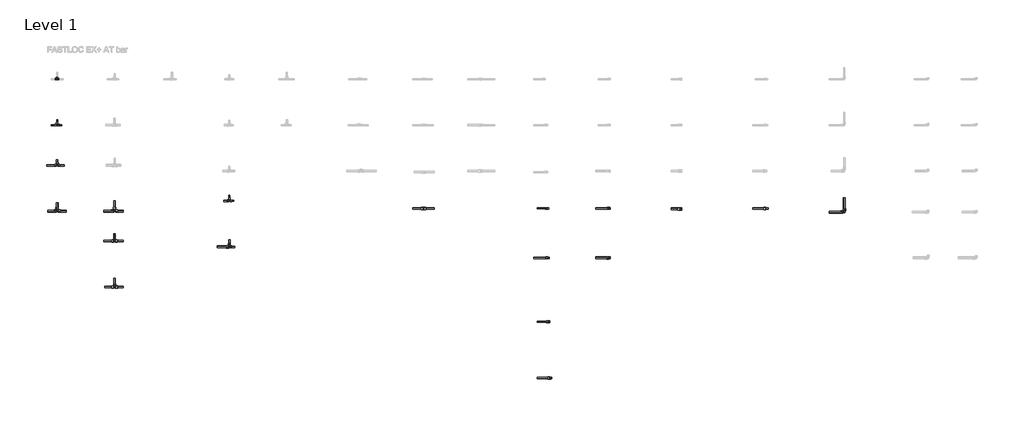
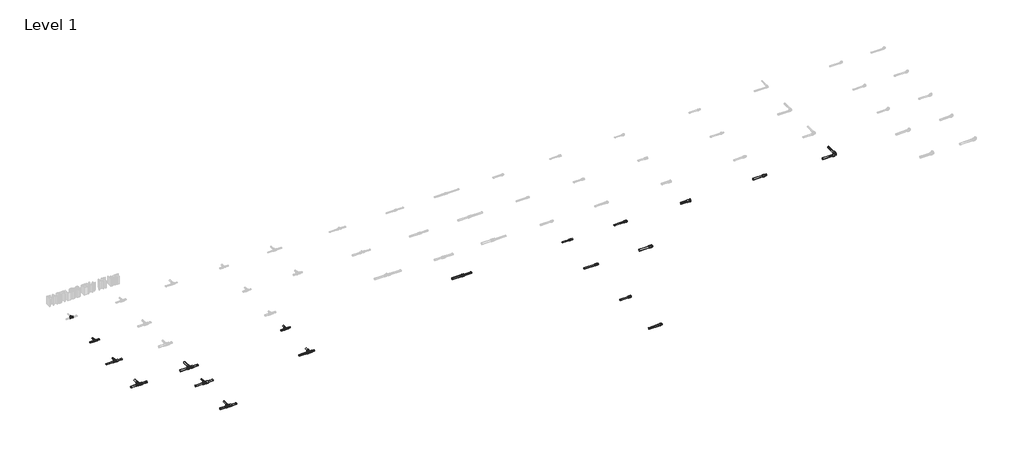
# One storey, part 1 of 16: 36 pipe segments, 19 pipe fittings.
"""IFC4 building model written with IfcOpenShell, lengths in millimetres."""

from ifc_helpers import new_model, si_unit, point, frame, frame_2d, origin, place, context, project, spatial, circle_curve, trimmed, segment, composite_curve, outline, extrude, transform, mapped, element, save
from components import pipe_fitting_5ed0d7cb, pipe_fitting_a2ce5f58, pipe_fitting_431f7250, pipe_fitting_a4fef31a, pipe_fitting_24cae873, pipe_fitting_67dfde5a, pipe_fitting_bb304fa9, pipe_fitting_59775212, pipe_fitting_7921c085, pipe_fitting_502111f3, pipe_fitting_137fcba6, pipe_fitting_c3e7e8f9, pipe_fitting_baae1e9c, pipe_fitting_f5731c1c, pipe_fitting_fe659845, pipe_fitting_76e4ea32, pipe_fitting_18fcccac, pipe_fitting_1e296f3b

model = new_model("IFC4")

# Units and contexts
model_context = context("Model", 3, world=origin())
ifc_project = project(units=[si_unit("LENGTHUNIT", "METRE", prefix="MILLI")], contexts=[model_context])

# Site, building, storey
site = spatial("IfcSite", under=ifc_project)
building = spatial("IfcBuilding", under=site)
storey = spatial("IfcBuildingStorey", under=building, Name="Level 1", Elevation=0.0)

# Pipe fittings
placement = place(None, origin())
pipe_fitting_shape = pipe_fitting_5ed0d7cb(model_context)
element("IfcPipeFitting", 1, ObjectType="FASTLOC_Adapter_RX+, with external thread : FSL A C external EX+ AT", at=placement, inside=storey, context=model_context, shape_type="MappedRepresentation", body=[
    mapped(pipe_fitting_shape, transform((10098.2332092, -8539.0537829, 0.0), x_axis=(1.0, 0.0, 0.0), y_axis=(0.0, 1.0, 0.0), z_axis=(0.0, 0.0, 1.0))),
])
pipe_fitting_2_shape = pipe_fitting_a2ce5f58(model_context)
element("IfcPipeFitting", 2, ObjectType="FASTLOC_Adapter_RX+, with external thread : FSL A C external EX+ AT", at=placement, inside=storey, context=model_context, shape_type="MappedRepresentation", body=[
    mapped(pipe_fitting_2_shape, transform((10110.8952889, -9399.407392, 0.0), x_axis=(1.0, 0.0, 0.0), y_axis=(0.0, 1.0, 0.0), z_axis=(0.0, 0.0, 1.0))),
])
pipe_fitting_3_shape = pipe_fitting_431f7250(model_context)
element("IfcPipeFitting", 3, ObjectType="FASTLOC_Adapter_RX+, with external thread : FSL A C external EX+ AT", at=placement, inside=storey, context=model_context, shape_type="MappedRepresentation", body=[
    mapped(pipe_fitting_3_shape, transform((10115.9601208, -10513.6704117, 0.0), x_axis=(1.0, 0.0, 0.0), y_axis=(0.0, 1.0, 0.0), z_axis=(0.0, 0.0, 1.0))),
])
pipe_fitting_4_shape = pipe_fitting_a4fef31a(model_context)
element("IfcPipeFitting", 4, ObjectType="FASTLOC_Adapter_RX+, with external thread : FSL A C external EX+ AT", at=placement, inside=storey, context=model_context, shape_type="MappedRepresentation", body=[
    mapped(pipe_fitting_4_shape, transform((10153.9463601, -11493.7153858, 0.0), x_axis=(1.0, 0.0, 0.0), y_axis=(0.0, 1.0, 0.0), z_axis=(0.0, 0.0, 1.0))),
])
pipe_fitting_5_shape = pipe_fitting_24cae873(model_context)
element("IfcPipeFitting", 5, ObjectType="FASTLOC_Corner EX+ : FSL C EX+ AT", at=placement, inside=storey, context=model_context, shape_type="MappedRepresentation", body=[
    mapped(pipe_fitting_5_shape, transform((15275.3824015, -8604.9640428, 0.0), x_axis=(1.0, 0.0, 0.0), y_axis=(0.0, 1.0, 0.0), z_axis=(0.0, 0.0, 1.0))),
])
pipe_fitting_6_shape = pipe_fitting_67dfde5a(model_context)
element("IfcPipeFitting", 6, ObjectType="FASTLOC_T-piece_EX+ : FSL T-Piece EX+ AT", at=placement, inside=storey, context=model_context, shape_type="MappedRepresentation", body=[
    mapped(pipe_fitting_6_shape, transform((1562.9146925, -6287.6479967, 0.0), x_axis=(1.0, 0.0, 0.0), y_axis=(0.0, 1.0, 0.0), z_axis=(0.0, 0.0, 1.0))),
])
pipe_fitting_7_shape = pipe_fitting_bb304fa9(model_context)
element("IfcPipeFitting", 7, ObjectType="FASTLOC_T-piece_EX+ : FSL T-Piece EX+ AT", at=placement, inside=storey, context=model_context, shape_type="MappedRepresentation", body=[
    mapped(pipe_fitting_7_shape, transform((1562.9146925, -7087.6479967, 0.0), x_axis=(1.0, 0.0, 0.0), y_axis=(0.0, 1.0, 0.0), z_axis=(0.0, 0.0, 1.0))),
])
pipe_fitting_8_shape = pipe_fitting_59775212(model_context)
element("IfcPipeFitting", 8, ObjectType="FASTLOC_T-piece_EX+ : FSL T-Piece EX+ AT", at=placement, inside=storey, context=model_context, shape_type="MappedRepresentation", body=[
    mapped(pipe_fitting_8_shape, transform((1562.9146925, -7787.6479967, 0.0), x_axis=(1.0, 0.0, 0.0), y_axis=(0.0, 1.0, 0.0), z_axis=(0.0, 0.0, 1.0))),
])
pipe_fitting_9_shape = pipe_fitting_7921c085(model_context)
element("IfcPipeFitting", 9, ObjectType="FASTLOC_T-piece_EX+ : FSL T-Piece EX+ AT", at=placement, inside=storey, context=model_context, shape_type="MappedRepresentation", body=[
    mapped(pipe_fitting_9_shape, transform((1562.9146925, -8587.6479967, 0.0), x_axis=(1.0, 0.0, 0.0), y_axis=(0.0, 1.0, 0.0), z_axis=(0.0, 0.0, 1.0))),
])
element("IfcPipeFitting", 10, ObjectType="FASTLOC_T-piece_EX+ : FSL T-Piece EX+ AT", at=placement, inside=storey, context=model_context, shape_type="MappedRepresentation", body=[
    mapped(pipe_fitting_9_shape, transform((2562.9146925, -8587.6479967, 0.0), x_axis=(1.0, 0.0, 0.0), y_axis=(0.0, 1.0, 0.0), z_axis=(0.0, 0.0, 1.0))),
])
pipe_fitting_10_shape = pipe_fitting_502111f3(model_context)
element("IfcPipeFitting", 11, ObjectType="FASTLOC_T-piece_EX+ : FSL T-Piece EX+ AT", at=placement, inside=storey, context=model_context, shape_type="MappedRepresentation", body=[
    mapped(pipe_fitting_10_shape, transform((2562.9146925, -9107.6479967, 0.0), x_axis=(1.0, 0.0, 0.0), y_axis=(0.0, 1.0, 0.0), z_axis=(0.0, 0.0, 1.0))),
])
pipe_fitting_11_shape = pipe_fitting_137fcba6(model_context)
element("IfcPipeFitting", 12, ObjectType="FASTLOC_T-piece_EX+ : FSL T-Piece EX+ AT", at=placement, inside=storey, context=model_context, shape_type="MappedRepresentation", body=[
    mapped(pipe_fitting_11_shape, transform((2562.9146925, -9907.6479967, 0.0), x_axis=(1.0, 0.0, 0.0), y_axis=(0.0, 1.0, 0.0), z_axis=(0.0, 0.0, 1.0))),
])
pipe_fitting_12_shape = pipe_fitting_c3e7e8f9(model_context)
element("IfcPipeFitting", 13, ObjectType="FASTLOC_T-piece_EX+ : FSL T-Piece EX+ AT", at=placement, inside=storey, context=model_context, shape_type="MappedRepresentation", body=[
    mapped(pipe_fitting_12_shape, transform((4562.9146925, -9207.6479967, 0.0), x_axis=(1.0, 0.0, 0.0), y_axis=(0.0, 1.0, 0.0), z_axis=(0.0, 0.0, 1.0))),
])
pipe_fitting_13_shape = pipe_fitting_baae1e9c(model_context)
element("IfcPipeFitting", 14, ObjectType="FASTLOC_T-piece_EX+ : FSL T-Piece EX+ AT", at=placement, inside=storey, context=model_context, shape_type="MappedRepresentation", body=[
    mapped(pipe_fitting_13_shape, transform((4562.9146925, -8407.6479967, 0.0), x_axis=(1.0, 0.0, 0.0), y_axis=(0.0, 1.0, 0.0), z_axis=(0.0, 0.0, 1.0))),
])
pipe_fitting_14_shape = pipe_fitting_f5731c1c(model_context)
element("IfcPipeFitting", 15, ObjectType="FASTLOC_Coupling equal EX+ : FSL C EQ EX+ AT", at=placement, inside=storey, context=model_context, shape_type="MappedRepresentation", body=[
    mapped(pipe_fitting_14_shape, transform((7947.6401575, -8539.0537829, 0.0), x_axis=(1.0, 0.0, 0.0), y_axis=(0.0, 1.0, 0.0), z_axis=(0.0, 0.0, 1.0))),
])
pipe_fitting_15_shape = pipe_fitting_fe659845(model_context)
element("IfcPipeFitting", 16, ObjectType="FASTLOC Copper press adapter RX+ : FSL RX+ AT", at=placement, inside=storey, context=model_context, shape_type="MappedRepresentation", body=[
    mapped(pipe_fitting_15_shape, transform((13915.3824015, -8539.0537829, 0.0), x_axis=(1.0, 0.0, 0.0), y_axis=(0.0, 1.0, 0.0), z_axis=(0.0, 0.0, 1.0))),
])
pipe_fitting_16_shape = pipe_fitting_76e4ea32(model_context)
element("IfcPipeFitting", 17, ObjectType="FASTLOC_Adapter with union nut EX+ : FSL A union nut EX+ DE", at=placement, inside=storey, context=model_context, shape_type="MappedRepresentation", body=[
    mapped(pipe_fitting_16_shape, transform((12418.3503777, -8547.0537829, 0.0), x_axis=(1.0, 0.0, 0.0), y_axis=(0.0, 1.0, 0.0), z_axis=(0.0, 0.0, 1.0))),
])
pipe_fitting_17_shape = pipe_fitting_18fcccac(model_context)
element("IfcPipeFitting", 18, ObjectType="FASTLOC_Adapter_EX+, with internal thread : FSL A internal AT", at=placement, inside=storey, context=model_context, shape_type="MappedRepresentation", body=[
    mapped(pipe_fitting_17_shape, transform((11179.5143796, -8539.0537829, 0.0), x_axis=(1.0, 0.0, 0.0), y_axis=(0.0, 1.0, 0.0), z_axis=(0.0, 0.0, 1.0))),
])
pipe_fitting_18_shape = pipe_fitting_1e296f3b(model_context)
element("IfcPipeFitting", 19, ObjectType="FASTLOC_Adapter_EX+, with internal thread : FSL A internal AT", at=placement, inside=storey, context=model_context, shape_type="MappedRepresentation", body=[
    mapped(pipe_fitting_18_shape, transform((11179.5143796, -9399.407392, 0.0), x_axis=(1.0, 0.0, 0.0), y_axis=(0.0, 1.0, 0.0), z_axis=(0.0, 0.0, 1.0))),
])

# Pipe segments
element("IfcPipeSegment", 20, ObjectType="FASTLOC EX+ ML AT bar", at=placement, inside=storey, context=model_context, shape_type="SweptSolid", body=[
    extrude(outline(composite_curve([segment(trimmed(circle_curve(frame_2d((0.0, 15275.3824015)), 16.0), [point((0.0, 15291.3824015))], [point((16.0, 15275.3824015))], False, "CARTESIAN"), True, "CONTINUOUS"), segment(trimmed(circle_curve(frame_2d((0.0, 15275.3824015)), 16.0), [point((16.0, 15275.3824015))], [point((0.0, 15259.3824015))], False, "CARTESIAN"), True, "CONTINUOUS"), segment(trimmed(circle_curve(frame_2d((0.0, 15275.3824015)), 16.0), [point((0.0, 15259.3824015))], [point((-16.0, 15275.3824015))], False, "CARTESIAN"), True, "CONTINUOUS"), segment(trimmed(circle_curve(frame_2d((0.0, 15275.3824015)), 16.0), [point((-16.0, 15275.3824015))], [point((0.0, 15291.3824015))], False, "CARTESIAN"), True, "CONTINUOUS")], self_intersect=False)), frame((0.0, -8569.9640428, 0.0), z_axis=(0.0, 1.0, 0.0), x_axis=(0.0, 0.0, 1.0)), (0.0, 0.0, 1.0), 220.0),
])
element("IfcPipeSegment", 21, ObjectType="FASTLOC EX+ ML AT bar", at=placement, inside=storey, context=model_context, shape_type="SweptSolid", body=[
    extrude(outline(composite_curve([segment(trimmed(circle_curve(frame_2d((-8604.9640428, 0.0)), 16.0), [point((-8588.9640428, 0.0))], [point((-8604.9640428, -16.0))], False, "CARTESIAN"), True, "CONTINUOUS"), segment(trimmed(circle_curve(frame_2d((-8604.9640428, 0.0)), 16.0), [point((-8604.9640428, -16.0))], [point((-8620.9640428, 0.0))], False, "CARTESIAN"), True, "CONTINUOUS"), segment(trimmed(circle_curve(frame_2d((-8604.9640428, 0.0)), 16.0), [point((-8620.9640428, 0.0))], [point((-8604.9640428, 16.0))], False, "CARTESIAN"), True, "CONTINUOUS"), segment(trimmed(circle_curve(frame_2d((-8604.9640428, 0.0)), 16.0), [point((-8604.9640428, 16.0))], [point((-8588.9640428, 0.0))], False, "CARTESIAN"), True, "CONTINUOUS")], self_intersect=False)), frame((15013.2824015, 0.0, 0.0), z_axis=(1.0, 0.0, 0.0), x_axis=(0.0, 1.0, 0.0)), (0.0, 0.0, 1.0), 227.1),
])
element("IfcPipeSegment", 22, ObjectType="FASTLOC EX+ ML AT bar", at=placement, inside=storey, context=model_context, shape_type="SweptSolid", body=[
    extrude(outline(composite_curve([segment(trimmed(circle_curve(frame_2d((-8539.0537829, 0.0)), 16.0), [point((-8523.0537829, 0.0))], [point((-8539.0537829, -16.0))], False, "CARTESIAN"), True, "CONTINUOUS"), segment(trimmed(circle_curve(frame_2d((-8539.0537829, 0.0)), 16.0), [point((-8539.0537829, -16.0))], [point((-8555.0537829, 0.0))], False, "CARTESIAN"), True, "CONTINUOUS"), segment(trimmed(circle_curve(frame_2d((-8539.0537829, 0.0)), 16.0), [point((-8555.0537829, 0.0))], [point((-8539.0537829, 16.0))], False, "CARTESIAN"), True, "CONTINUOUS"), segment(trimmed(circle_curve(frame_2d((-8539.0537829, 0.0)), 16.0), [point((-8539.0537829, 16.0))], [point((-8523.0537829, 0.0))], False, "CARTESIAN"), True, "CONTINUOUS")], self_intersect=False)), frame((13682.2824015, 0.0, 0.0), z_axis=(1.0, 0.0, 0.0), x_axis=(0.0, 1.0, 0.0)), (0.0, 0.0, 1.0), 220.0),
])
element("IfcPipeSegment", 23, ObjectType="FASTLOC EX+ ML AT bar", at=placement, inside=storey, context=model_context, shape_type="SweptSolid", body=[
    extrude(outline(composite_curve([segment(trimmed(circle_curve(frame_2d((-8547.0537829, 0.0)), 16.0), [point((-8531.0537829, 0.0))], [point((-8547.0537829, -16.0))], False, "CARTESIAN"), True, "CONTINUOUS"), segment(trimmed(circle_curve(frame_2d((-8547.0537829, 0.0)), 16.0), [point((-8547.0537829, -16.0))], [point((-8563.0537829, 0.0))], False, "CARTESIAN"), True, "CONTINUOUS"), segment(trimmed(circle_curve(frame_2d((-8547.0537829, 0.0)), 16.0), [point((-8563.0537829, 0.0))], [point((-8547.0537829, 16.0))], False, "CARTESIAN"), True, "CONTINUOUS"), segment(trimmed(circle_curve(frame_2d((-8547.0537829, 0.0)), 16.0), [point((-8547.0537829, 16.0))], [point((-8531.0537829, 0.0))], False, "CARTESIAN"), True, "CONTINUOUS")], self_intersect=False)), frame((12259.3503777, 0.0, 0.0), z_axis=(1.0, 0.0, 0.0), x_axis=(0.0, 1.0, 0.0)), (0.0, 0.0, 1.0), 147.5),
])
element("IfcPipeSegment", 24, ObjectType="FASTLOC EX+ ML AT bar", at=placement, inside=storey, context=model_context, shape_type="SweptSolid", body=[
    extrude(outline(composite_curve([segment(trimmed(circle_curve(frame_2d((-8539.0537829, 0.0)), 12.5), [point((-8526.5537829, 0.0))], [point((-8539.0537829, -12.5))], False, "CARTESIAN"), True, "CONTINUOUS"), segment(trimmed(circle_curve(frame_2d((-8539.0537829, 0.0)), 12.5), [point((-8539.0537829, -12.5))], [point((-8551.5537829, 0.0))], False, "CARTESIAN"), True, "CONTINUOUS"), segment(trimmed(circle_curve(frame_2d((-8539.0537829, 0.0)), 12.5), [point((-8551.5537829, 0.0))], [point((-8539.0537829, 12.5))], False, "CARTESIAN"), True, "CONTINUOUS"), segment(trimmed(circle_curve(frame_2d((-8539.0537829, 0.0)), 12.5), [point((-8539.0537829, 12.5))], [point((-8526.5537829, 0.0))], False, "CARTESIAN"), True, "CONTINUOUS")], self_intersect=False)), frame((10946.6143796, 0.0, 0.0), z_axis=(1.0, 0.0, 0.0), x_axis=(0.0, 1.0, 0.0)), (0.0, 0.0, 1.0), 220.0),
])
element("IfcPipeSegment", 25, ObjectType="FASTLOC EX+ ML AT bar", at=placement, inside=storey, context=model_context, shape_type="SweptSolid", body=[
    extrude(outline(composite_curve([segment(trimmed(circle_curve(frame_2d((-9399.407392, 0.0)), 16.0), [point((-9383.407392, 0.0))], [point((-9399.407392, -16.0))], False, "CARTESIAN"), True, "CONTINUOUS"), segment(trimmed(circle_curve(frame_2d((-9399.407392, 0.0)), 16.0), [point((-9399.407392, -16.0))], [point((-9415.407392, 0.0))], False, "CARTESIAN"), True, "CONTINUOUS"), segment(trimmed(circle_curve(frame_2d((-9399.407392, 0.0)), 16.0), [point((-9415.407392, 0.0))], [point((-9399.407392, 16.0))], False, "CARTESIAN"), True, "CONTINUOUS"), segment(trimmed(circle_curve(frame_2d((-9399.407392, 0.0)), 16.0), [point((-9399.407392, 16.0))], [point((-9383.407392, 0.0))], False, "CARTESIAN"), True, "CONTINUOUS")], self_intersect=False)), frame((10946.6143796, 0.0, 0.0), z_axis=(1.0, 0.0, 0.0), x_axis=(0.0, 1.0, 0.0)), (0.0, 0.0, 1.0), 218.4),
])
element("IfcPipeSegment", 26, ObjectType="FASTLOC EX+ ML AT bar", at=placement, inside=storey, context=model_context, shape_type="SweptSolid", body=[
    extrude(outline(composite_curve([segment(trimmed(circle_curve(frame_2d((-10513.6704117, 0.0)), 12.5), [point((-10501.1704117, 0.0))], [point((-10513.6704117, -12.5))], False, "CARTESIAN"), True, "CONTINUOUS"), segment(trimmed(circle_curve(frame_2d((-10513.6704117, 0.0)), 12.5), [point((-10513.6704117, -12.5))], [point((-10526.1704117, 0.0))], False, "CARTESIAN"), True, "CONTINUOUS"), segment(trimmed(circle_curve(frame_2d((-10513.6704117, 0.0)), 12.5), [point((-10526.1704117, 0.0))], [point((-10513.6704117, 12.5))], False, "CARTESIAN"), True, "CONTINUOUS"), segment(trimmed(circle_curve(frame_2d((-10513.6704117, 0.0)), 12.5), [point((-10513.6704117, 12.5))], [point((-10501.1704117, 0.0))], False, "CARTESIAN"), True, "CONTINUOUS")], self_intersect=False)), frame((9926.5601208, 0.0, 0.0), z_axis=(1.0, 0.0, 0.0), x_axis=(0.0, 1.0, 0.0)), (0.0, 0.0, 1.0), 180.0),
])
element("IfcPipeSegment", 27, ObjectType="FASTLOC EX+ ML AT bar", at=placement, inside=storey, context=model_context, shape_type="SweptSolid", body=[
    extrude(outline(composite_curve([segment(trimmed(circle_curve(frame_2d((-9399.407392, 0.0)), 12.5), [point((-9386.907392, 0.0))], [point((-9399.407392, -12.5))], False, "CARTESIAN"), True, "CONTINUOUS"), segment(trimmed(circle_curve(frame_2d((-9399.407392, 0.0)), 12.5), [point((-9399.407392, -12.5))], [point((-9411.907392, 0.0))], False, "CARTESIAN"), True, "CONTINUOUS"), segment(trimmed(circle_curve(frame_2d((-9399.407392, 0.0)), 12.5), [point((-9411.907392, 0.0))], [point((-9399.407392, 12.5))], False, "CARTESIAN"), True, "CONTINUOUS"), segment(trimmed(circle_curve(frame_2d((-9399.407392, 0.0)), 12.5), [point((-9399.407392, 12.5))], [point((-9386.907392, 0.0))], False, "CARTESIAN"), True, "CONTINUOUS")], self_intersect=False)), frame((9861.4952889, 0.0, 0.0), z_axis=(1.0, 0.0, 0.0), x_axis=(0.0, 1.0, 0.0)), (0.0, 0.0, 1.0), 240.0),
])
element("IfcPipeSegment", 28, ObjectType="FASTLOC EX+ ML AT bar", at=placement, inside=storey, context=model_context, shape_type="SweptSolid", body=[
    extrude(outline(composite_curve([segment(trimmed(circle_curve(frame_2d((-8539.0537829, 0.0)), 10.0), [point((-8529.0537829, 0.0))], [point((-8539.0537829, -10.0))], False, "CARTESIAN"), True, "CONTINUOUS"), segment(trimmed(circle_curve(frame_2d((-8539.0537829, 0.0)), 10.0), [point((-8539.0537829, -10.0))], [point((-8549.0537829, 0.0))], False, "CARTESIAN"), True, "CONTINUOUS"), segment(trimmed(circle_curve(frame_2d((-8539.0537829, 0.0)), 10.0), [point((-8549.0537829, 0.0))], [point((-8539.0537829, 10.0))], False, "CARTESIAN"), True, "CONTINUOUS"), segment(trimmed(circle_curve(frame_2d((-8539.0537829, 0.0)), 10.0), [point((-8539.0537829, 10.0))], [point((-8529.0537829, 0.0))], False, "CARTESIAN"), True, "CONTINUOUS")], self_intersect=False)), frame((9926.5601208, 0.0, 0.0), z_axis=(1.0, 0.0, 0.0), x_axis=(0.0, 1.0, 0.0)), (0.0, 0.0, 1.0), 162.3730883),
])
element("IfcPipeSegment", 29, ObjectType="FASTLOC EX+ ML AT bar", at=placement, inside=storey, context=model_context, shape_type="SweptSolid", body=[
    extrude(outline(composite_curve([segment(trimmed(circle_curve(frame_2d((-8539.0537829, 0.0)), 16.0), [point((-8555.0537829, 0.0))], [point((-8539.0537829, 16.0))], False, "CARTESIAN"), True, "CONTINUOUS"), segment(trimmed(circle_curve(frame_2d((-8539.0537829, 0.0)), 16.0), [point((-8539.0537829, 16.0))], [point((-8523.0537829, 0.0))], False, "CARTESIAN"), True, "CONTINUOUS"), segment(trimmed(circle_curve(frame_2d((-8539.0537829, 0.0)), 16.0), [point((-8523.0537829, 0.0))], [point((-8539.0537829, -16.0))], False, "CARTESIAN"), True, "CONTINUOUS"), segment(trimmed(circle_curve(frame_2d((-8539.0537829, 0.0)), 16.0), [point((-8539.0537829, -16.0))], [point((-8555.0537829, 0.0))], False, "CARTESIAN"), True, "CONTINUOUS")], self_intersect=False)), frame((7957.6401575, 0.0, 0.0), z_axis=(1.0, 0.0, 0.0), x_axis=(0.0, 1.0, 0.0)), (0.0, 0.0, 1.0), 178.0),
])
element("IfcPipeSegment", 30, ObjectType="FASTLOC EX+ ML AT bar", at=placement, inside=storey, context=model_context, shape_type="SweptSolid", body=[
    extrude(outline(composite_curve([segment(trimmed(circle_curve(frame_2d((-8539.0537829, 0.0)), 16.0), [point((-8523.0537829, 0.0))], [point((-8539.0537829, -16.0))], False, "CARTESIAN"), True, "CONTINUOUS"), segment(trimmed(circle_curve(frame_2d((-8539.0537829, 0.0)), 16.0), [point((-8539.0537829, -16.0))], [point((-8555.0537829, 0.0))], False, "CARTESIAN"), True, "CONTINUOUS"), segment(trimmed(circle_curve(frame_2d((-8539.0537829, 0.0)), 16.0), [point((-8555.0537829, 0.0))], [point((-8539.0537829, 16.0))], False, "CARTESIAN"), True, "CONTINUOUS"), segment(trimmed(circle_curve(frame_2d((-8539.0537829, 0.0)), 16.0), [point((-8539.0537829, 16.0))], [point((-8523.0537829, 0.0))], False, "CARTESIAN"), True, "CONTINUOUS")], self_intersect=False)), frame((7757.6401575, 0.0, 0.0), z_axis=(1.0, 0.0, 0.0), x_axis=(0.0, 1.0, 0.0)), (0.0, 0.0, 1.0), 180.0),
])
element("IfcPipeSegment", 31, ObjectType="FASTLOC EX+ ML AT bar", at=placement, inside=storey, context=model_context, shape_type="SweptSolid", body=[
    extrude(outline(composite_curve([segment(trimmed(circle_curve(frame_2d((-8407.6479967, 0.0)), 10.0), [point((-8417.6479967, 0.0))], [point((-8407.6479967, 10.0))], False, "CARTESIAN"), True, "CONTINUOUS"), segment(trimmed(circle_curve(frame_2d((-8407.6479967, 0.0)), 10.0), [point((-8407.6479967, 10.0))], [point((-8397.6479967, 0.0))], False, "CARTESIAN"), True, "CONTINUOUS"), segment(trimmed(circle_curve(frame_2d((-8407.6479967, 0.0)), 10.0), [point((-8397.6479967, 0.0))], [point((-8407.6479967, -10.0))], False, "CARTESIAN"), True, "CONTINUOUS"), segment(trimmed(circle_curve(frame_2d((-8407.6479967, 0.0)), 10.0), [point((-8407.6479967, -10.0))], [point((-8417.6479967, 0.0))], False, "CARTESIAN"), True, "CONTINUOUS")], self_intersect=False)), frame((4580.3146925, 0.0, 0.0), z_axis=(1.0, 0.0, 0.0), x_axis=(0.0, 1.0, 0.0)), (0.0, 0.0, 1.0), 60.0),
])
element("IfcPipeSegment", 32, ObjectType="FASTLOC EX+ ML AT bar", at=placement, inside=storey, context=model_context, shape_type="SweptSolid", body=[
    extrude(outline(composite_curve([segment(trimmed(circle_curve(frame_2d((0.0, 4562.9146925)), 10.0), [point((0.0, 4572.9146925))], [point((10.0, 4562.9146925))], False, "CARTESIAN"), True, "CONTINUOUS"), segment(trimmed(circle_curve(frame_2d((0.0, 4562.9146925)), 10.0), [point((10.0, 4562.9146925))], [point((0.0, 4552.9146925))], False, "CARTESIAN"), True, "CONTINUOUS"), segment(trimmed(circle_curve(frame_2d((0.0, 4562.9146925)), 10.0), [point((0.0, 4552.9146925))], [point((-10.0, 4562.9146925))], False, "CARTESIAN"), True, "CONTINUOUS"), segment(trimmed(circle_curve(frame_2d((0.0, 4562.9146925)), 10.0), [point((-10.0, 4562.9146925))], [point((0.0, 4572.9146925))], False, "CARTESIAN"), True, "CONTINUOUS")], self_intersect=False)), frame((0.0, -8378.4479967, 0.0), z_axis=(0.0, 1.0, 0.0), x_axis=(0.0, 0.0, 1.0)), (0.0, 0.0, 1.0), 65.0),
])
element("IfcPipeSegment", 33, ObjectType="FASTLOC EX+ ML AT bar", at=placement, inside=storey, context=model_context, shape_type="SweptSolid", body=[
    extrude(outline(composite_curve([segment(trimmed(circle_curve(frame_2d((-8407.6479967, 0.0)), 12.5), [point((-8395.1479967, 0.0))], [point((-8407.6479967, -12.5))], False, "CARTESIAN"), True, "CONTINUOUS"), segment(trimmed(circle_curve(frame_2d((-8407.6479967, 0.0)), 12.5), [point((-8407.6479967, -12.5))], [point((-8420.1479967, 0.0))], False, "CARTESIAN"), True, "CONTINUOUS"), segment(trimmed(circle_curve(frame_2d((-8407.6479967, 0.0)), 12.5), [point((-8420.1479967, 0.0))], [point((-8407.6479967, 12.5))], False, "CARTESIAN"), True, "CONTINUOUS"), segment(trimmed(circle_curve(frame_2d((-8407.6479967, 0.0)), 12.5), [point((-8407.6479967, 12.5))], [point((-8395.1479967, 0.0))], False, "CARTESIAN"), True, "CONTINUOUS")], self_intersect=False)), frame((4464.6146925, 0.0, 0.0), z_axis=(1.0, 0.0, 0.0), x_axis=(0.0, 1.0, 0.0)), (0.0, 0.0, 1.0), 80.0),
])
element("IfcPipeSegment", 34, ObjectType="FASTLOC EX+ ML AT bar", at=placement, inside=storey, context=model_context, shape_type="SweptSolid", body=[
    extrude(outline(composite_curve([segment(trimmed(circle_curve(frame_2d((-9207.6479967, 0.0)), 12.5), [point((-9220.1479967, 0.0))], [point((-9207.6479967, 12.5))], False, "CARTESIAN"), True, "CONTINUOUS"), segment(trimmed(circle_curve(frame_2d((-9207.6479967, 0.0)), 12.5), [point((-9207.6479967, 12.5))], [point((-9195.1479967, 0.0))], False, "CARTESIAN"), True, "CONTINUOUS"), segment(trimmed(circle_curve(frame_2d((-9207.6479967, 0.0)), 12.5), [point((-9195.1479967, 0.0))], [point((-9207.6479967, -12.5))], False, "CARTESIAN"), True, "CONTINUOUS"), segment(trimmed(circle_curve(frame_2d((-9207.6479967, 0.0)), 12.5), [point((-9207.6479967, -12.5))], [point((-9220.1479967, 0.0))], False, "CARTESIAN"), True, "CONTINUOUS")], self_intersect=False)), frame((4583.0146925, 0.0, 0.0), z_axis=(1.0, 0.0, 0.0), x_axis=(0.0, 1.0, 0.0)), (0.0, 0.0, 1.0), 70.4),
])
element("IfcPipeSegment", 35, ObjectType="FASTLOC EX+ ML AT bar", at=placement, inside=storey, context=model_context, shape_type="SweptSolid", body=[
    extrude(outline(composite_curve([segment(trimmed(circle_curve(frame_2d((0.0, 4562.9146925)), 12.5), [point((0.0, 4575.4146925))], [point((12.5, 4562.9146925))], False, "CARTESIAN"), True, "CONTINUOUS"), segment(trimmed(circle_curve(frame_2d((0.0, 4562.9146925)), 12.5), [point((12.5, 4562.9146925))], [point((0.0, 4550.4146925))], False, "CARTESIAN"), True, "CONTINUOUS"), segment(trimmed(circle_curve(frame_2d((0.0, 4562.9146925)), 12.5), [point((0.0, 4550.4146925))], [point((-12.5, 4562.9146925))], False, "CARTESIAN"), True, "CONTINUOUS"), segment(trimmed(circle_curve(frame_2d((0.0, 4562.9146925)), 12.5), [point((-12.5, 4562.9146925))], [point((0.0, 4575.4146925))], False, "CARTESIAN"), True, "CONTINUOUS")], self_intersect=False)), frame((0.0, -9173.2479967, 0.0), z_axis=(0.0, 1.0, 0.0), x_axis=(0.0, 0.0, 1.0)), (0.0, 0.0, 1.0), 85.0),
])
element("IfcPipeSegment", 36, ObjectType="FASTLOC EX+ ML AT bar", at=placement, inside=storey, context=model_context, shape_type="SweptSolid", body=[
    extrude(outline(composite_curve([segment(trimmed(circle_curve(frame_2d((-9207.6479967, 0.0)), 16.0), [point((-9191.6479967, 0.0))], [point((-9207.6479967, -16.0))], False, "CARTESIAN"), True, "CONTINUOUS"), segment(trimmed(circle_curve(frame_2d((-9207.6479967, 0.0)), 16.0), [point((-9207.6479967, -16.0))], [point((-9223.6479967, 0.0))], False, "CARTESIAN"), True, "CONTINUOUS"), segment(trimmed(circle_curve(frame_2d((-9207.6479967, 0.0)), 16.0), [point((-9223.6479967, 0.0))], [point((-9207.6479967, 16.0))], False, "CARTESIAN"), True, "CONTINUOUS"), segment(trimmed(circle_curve(frame_2d((-9207.6479967, 0.0)), 16.0), [point((-9207.6479967, 16.0))], [point((-9191.6479967, 0.0))], False, "CARTESIAN"), True, "CONTINUOUS")], self_intersect=False)), frame((4355.8146925, 0.0, 0.0), z_axis=(1.0, 0.0, 0.0), x_axis=(0.0, 1.0, 0.0)), (0.0, 0.0, 1.0), 185.0),
])
element("IfcPipeSegment", 37, ObjectType="FASTLOC EX+ ML AT bar", at=placement, inside=storey, context=model_context, shape_type="SweptSolid", body=[
    extrude(outline(composite_curve([segment(trimmed(circle_curve(frame_2d((-8587.6479967, 0.0)), 16.0), [point((-8603.6479967, 0.0))], [point((-8587.6479967, 16.0))], False, "CARTESIAN"), True, "CONTINUOUS"), segment(trimmed(circle_curve(frame_2d((-8587.6479967, 0.0)), 16.0), [point((-8587.6479967, 16.0))], [point((-8571.6479967, 0.0))], False, "CARTESIAN"), True, "CONTINUOUS"), segment(trimmed(circle_curve(frame_2d((-8587.6479967, 0.0)), 16.0), [point((-8571.6479967, 0.0))], [point((-8587.6479967, -16.0))], False, "CARTESIAN"), True, "CONTINUOUS"), segment(trimmed(circle_curve(frame_2d((-8587.6479967, 0.0)), 16.0), [point((-8587.6479967, -16.0))], [point((-8603.6479967, 0.0))], False, "CARTESIAN"), True, "CONTINUOUS")], self_intersect=False)), frame((2587.7146925, 0.0, 0.0), z_axis=(1.0, 0.0, 0.0), x_axis=(0.0, 1.0, 0.0)), (0.0, 0.0, 1.0), 130.0),
])
element("IfcPipeSegment", 38, ObjectType="FASTLOC EX+ ML AT bar", at=placement, inside=storey, context=model_context, shape_type="SweptSolid", body=[
    extrude(outline(composite_curve([segment(trimmed(circle_curve(frame_2d((0.0, 2562.9146925)), 16.0), [point((0.0, 2578.9146925))], [point((16.0, 2562.9146925))], False, "CARTESIAN"), True, "CONTINUOUS"), segment(trimmed(circle_curve(frame_2d((0.0, 2562.9146925)), 16.0), [point((16.0, 2562.9146925))], [point((0.0, 2546.9146925))], False, "CARTESIAN"), True, "CONTINUOUS"), segment(trimmed(circle_curve(frame_2d((0.0, 2562.9146925)), 16.0), [point((0.0, 2546.9146925))], [point((-16.0, 2562.9146925))], False, "CARTESIAN"), True, "CONTINUOUS"), segment(trimmed(circle_curve(frame_2d((0.0, 2562.9146925)), 16.0), [point((-16.0, 2562.9146925))], [point((0.0, 2578.9146925))], False, "CARTESIAN"), True, "CONTINUOUS")], self_intersect=False)), frame((0.0, -8551.5479967, 0.0), z_axis=(0.0, 1.0, 0.0), x_axis=(0.0, 0.0, 1.0)), (0.0, 0.0, 1.0), 145.0),
])
element("IfcPipeSegment", 39, ObjectType="FASTLOC EX+ ML AT bar", at=placement, inside=storey, context=model_context, shape_type="SweptSolid", body=[
    extrude(outline(composite_curve([segment(trimmed(circle_curve(frame_2d((-8587.6479967, 0.0)), 16.0), [point((-8571.6479967, 0.0))], [point((-8587.6479967, -16.0))], False, "CARTESIAN"), True, "CONTINUOUS"), segment(trimmed(circle_curve(frame_2d((-8587.6479967, 0.0)), 16.0), [point((-8587.6479967, -16.0))], [point((-8603.6479967, 0.0))], False, "CARTESIAN"), True, "CONTINUOUS"), segment(trimmed(circle_curve(frame_2d((-8587.6479967, 0.0)), 16.0), [point((-8603.6479967, 0.0))], [point((-8587.6479967, 16.0))], False, "CARTESIAN"), True, "CONTINUOUS"), segment(trimmed(circle_curve(frame_2d((-8587.6479967, 0.0)), 16.0), [point((-8587.6479967, 16.0))], [point((-8571.6479967, 0.0))], False, "CARTESIAN"), True, "CONTINUOUS")], self_intersect=False)), frame((2373.1146925, 0.0, 0.0), z_axis=(1.0, 0.0, 0.0), x_axis=(0.0, 1.0, 0.0)), (0.0, 0.0, 1.0), 165.0),
])
element("IfcPipeSegment", 40, ObjectType="FASTLOC EX+ ML AT bar", at=placement, inside=storey, context=model_context, shape_type="SweptSolid", body=[
    extrude(outline(composite_curve([segment(trimmed(circle_curve(frame_2d((-9107.6479967, 0.0)), 16.0), [point((-9123.6479967, 0.0))], [point((-9107.6479967, 16.0))], False, "CARTESIAN"), True, "CONTINUOUS"), segment(trimmed(circle_curve(frame_2d((-9107.6479967, 0.0)), 16.0), [point((-9107.6479967, 16.0))], [point((-9091.6479967, 0.0))], False, "CARTESIAN"), True, "CONTINUOUS"), segment(trimmed(circle_curve(frame_2d((-9107.6479967, 0.0)), 16.0), [point((-9091.6479967, 0.0))], [point((-9107.6479967, -16.0))], False, "CARTESIAN"), True, "CONTINUOUS"), segment(trimmed(circle_curve(frame_2d((-9107.6479967, 0.0)), 16.0), [point((-9107.6479967, -16.0))], [point((-9123.6479967, 0.0))], False, "CARTESIAN"), True, "CONTINUOUS")], self_intersect=False)), frame((2583.1146925, 0.0, 0.0), z_axis=(1.0, 0.0, 0.0), x_axis=(0.0, 1.0, 0.0)), (0.0, 0.0, 1.0), 134.6),
])
element("IfcPipeSegment", 41, ObjectType="FASTLOC EX+ ML AT bar", at=placement, inside=storey, context=model_context, shape_type="SweptSolid", body=[
    extrude(outline(composite_curve([segment(trimmed(circle_curve(frame_2d((-9107.6479967, 0.0)), 16.0), [point((-9091.6479967, 0.0))], [point((-9107.6479967, -16.0))], False, "CARTESIAN"), True, "CONTINUOUS"), segment(trimmed(circle_curve(frame_2d((-9107.6479967, 0.0)), 16.0), [point((-9107.6479967, -16.0))], [point((-9123.6479967, 0.0))], False, "CARTESIAN"), True, "CONTINUOUS"), segment(trimmed(circle_curve(frame_2d((-9107.6479967, 0.0)), 16.0), [point((-9123.6479967, 0.0))], [point((-9107.6479967, 16.0))], False, "CARTESIAN"), True, "CONTINUOUS"), segment(trimmed(circle_curve(frame_2d((-9107.6479967, 0.0)), 16.0), [point((-9107.6479967, 16.0))], [point((-9091.6479967, 0.0))], False, "CARTESIAN"), True, "CONTINUOUS")], self_intersect=False)), frame((2373.1146925, 0.0, 0.0), z_axis=(1.0, 0.0, 0.0), x_axis=(0.0, 1.0, 0.0)), (0.0, 0.0, 1.0), 169.6),
])
element("IfcPipeSegment", 42, ObjectType="FASTLOC EX+ ML AT bar", at=placement, inside=storey, context=model_context, shape_type="SweptSolid", body=[
    extrude(outline(composite_curve([segment(trimmed(circle_curve(frame_2d((0.0, 2562.9146925)), 10.0), [point((0.0, 2572.9146925))], [point((10.0, 2562.9146925))], False, "CARTESIAN"), True, "CONTINUOUS"), segment(trimmed(circle_curve(frame_2d((0.0, 2562.9146925)), 10.0), [point((10.0, 2562.9146925))], [point((0.0, 2552.9146925))], False, "CARTESIAN"), True, "CONTINUOUS"), segment(trimmed(circle_curve(frame_2d((0.0, 2562.9146925)), 10.0), [point((0.0, 2552.9146925))], [point((-10.0, 2562.9146925))], False, "CARTESIAN"), True, "CONTINUOUS"), segment(trimmed(circle_curve(frame_2d((0.0, 2562.9146925)), 10.0), [point((-10.0, 2562.9146925))], [point((0.0, 2572.9146925))], False, "CARTESIAN"), True, "CONTINUOUS")], self_intersect=False)), frame((0.0, -9073.6479967, 0.0), z_axis=(0.0, 1.0, 0.0), x_axis=(0.0, 0.0, 1.0)), (0.0, 0.0, 1.0), 90.0),
])
element("IfcPipeSegment", 43, ObjectType="FASTLOC EX+ ML AT bar", at=placement, inside=storey, context=model_context, shape_type="SweptSolid", body=[
    extrude(outline(composite_curve([segment(trimmed(circle_curve(frame_2d((-9907.6479967, 0.0)), 16.0), [point((-9923.6479967, 0.0))], [point((-9907.6479967, 16.0))], False, "CARTESIAN"), True, "CONTINUOUS"), segment(trimmed(circle_curve(frame_2d((-9907.6479967, 0.0)), 16.0), [point((-9907.6479967, 16.0))], [point((-9891.6479967, 0.0))], False, "CARTESIAN"), True, "CONTINUOUS"), segment(trimmed(circle_curve(frame_2d((-9907.6479967, 0.0)), 16.0), [point((-9891.6479967, 0.0))], [point((-9907.6479967, -16.0))], False, "CARTESIAN"), True, "CONTINUOUS"), segment(trimmed(circle_curve(frame_2d((-9907.6479967, 0.0)), 16.0), [point((-9907.6479967, -16.0))], [point((-9923.6479967, 0.0))], False, "CARTESIAN"), True, "CONTINUOUS")], self_intersect=False)), frame((2584.9146925, 0.0, 0.0), z_axis=(1.0, 0.0, 0.0), x_axis=(0.0, 1.0, 0.0)), (0.0, 0.0, 1.0), 132.8),
])
element("IfcPipeSegment", 44, ObjectType="FASTLOC EX+ ML AT bar", at=placement, inside=storey, context=model_context, shape_type="SweptSolid", body=[
    extrude(outline(composite_curve([segment(trimmed(circle_curve(frame_2d((-9907.6479967, 0.0)), 16.0), [point((-9891.6479967, 0.0))], [point((-9907.6479967, -16.0))], False, "CARTESIAN"), True, "CONTINUOUS"), segment(trimmed(circle_curve(frame_2d((-9907.6479967, 0.0)), 16.0), [point((-9907.6479967, -16.0))], [point((-9923.6479967, 0.0))], False, "CARTESIAN"), True, "CONTINUOUS"), segment(trimmed(circle_curve(frame_2d((-9907.6479967, 0.0)), 16.0), [point((-9923.6479967, 0.0))], [point((-9907.6479967, 16.0))], False, "CARTESIAN"), True, "CONTINUOUS"), segment(trimmed(circle_curve(frame_2d((-9907.6479967, 0.0)), 16.0), [point((-9907.6479967, 16.0))], [point((-9891.6479967, 0.0))], False, "CARTESIAN"), True, "CONTINUOUS")], self_intersect=False)), frame((2395.9146925, 0.0, 0.0), z_axis=(1.0, 0.0, 0.0), x_axis=(0.0, 1.0, 0.0)), (0.0, 0.0, 1.0), 145.0),
])
element("IfcPipeSegment", 45, ObjectType="FASTLOC EX+ ML AT bar", at=placement, inside=storey, context=model_context, shape_type="SweptSolid", body=[
    extrude(outline(composite_curve([segment(trimmed(circle_curve(frame_2d((0.0, 2562.9146925)), 12.5), [point((0.0, 2575.4146925))], [point((12.5, 2562.9146925))], False, "CARTESIAN"), True, "CONTINUOUS"), segment(trimmed(circle_curve(frame_2d((0.0, 2562.9146925)), 12.5), [point((12.5, 2562.9146925))], [point((0.0, 2550.4146925))], False, "CARTESIAN"), True, "CONTINUOUS"), segment(trimmed(circle_curve(frame_2d((0.0, 2562.9146925)), 12.5), [point((0.0, 2550.4146925))], [point((-12.5, 2562.9146925))], False, "CARTESIAN"), True, "CONTINUOUS"), segment(trimmed(circle_curve(frame_2d((0.0, 2562.9146925)), 12.5), [point((-12.5, 2562.9146925))], [point((0.0, 2575.4146925))], False, "CARTESIAN"), True, "CONTINUOUS")], self_intersect=False)), frame((0.0, -9873.2479967, 0.0), z_axis=(0.0, 1.0, 0.0), x_axis=(0.0, 0.0, 1.0)), (0.0, 0.0, 1.0), 120.0),
])
element("IfcPipeSegment", 46, ObjectType="FASTLOC EX+ ML AT bar", at=placement, inside=storey, context=model_context, shape_type="SweptSolid", body=[
    extrude(outline(composite_curve([segment(trimmed(circle_curve(frame_2d((-8587.6479967, 0.0)), 16.0), [point((-8603.6479967, 0.0))], [point((-8587.6479967, 16.0))], False, "CARTESIAN"), True, "CONTINUOUS"), segment(trimmed(circle_curve(frame_2d((-8587.6479967, 0.0)), 16.0), [point((-8587.6479967, 16.0))], [point((-8571.6479967, 0.0))], False, "CARTESIAN"), True, "CONTINUOUS"), segment(trimmed(circle_curve(frame_2d((-8587.6479967, 0.0)), 16.0), [point((-8571.6479967, 0.0))], [point((-8587.6479967, -16.0))], False, "CARTESIAN"), True, "CONTINUOUS"), segment(trimmed(circle_curve(frame_2d((-8587.6479967, 0.0)), 16.0), [point((-8587.6479967, -16.0))], [point((-8603.6479967, 0.0))], False, "CARTESIAN"), True, "CONTINUOUS")], self_intersect=False)), frame((1587.7146925, 0.0, 0.0), z_axis=(1.0, 0.0, 0.0), x_axis=(0.0, 1.0, 0.0)), (0.0, 0.0, 1.0), 130.0),
])
element("IfcPipeSegment", 47, ObjectType="FASTLOC EX+ ML AT bar", at=placement, inside=storey, context=model_context, shape_type="SweptSolid", body=[
    extrude(outline(composite_curve([segment(trimmed(circle_curve(frame_2d((-8587.6479967, 0.0)), 16.0), [point((-8571.6479967, 0.0))], [point((-8587.6479967, -16.0))], False, "CARTESIAN"), True, "CONTINUOUS"), segment(trimmed(circle_curve(frame_2d((-8587.6479967, 0.0)), 16.0), [point((-8587.6479967, -16.0))], [point((-8603.6479967, 0.0))], False, "CARTESIAN"), True, "CONTINUOUS"), segment(trimmed(circle_curve(frame_2d((-8587.6479967, 0.0)), 16.0), [point((-8603.6479967, 0.0))], [point((-8587.6479967, 16.0))], False, "CARTESIAN"), True, "CONTINUOUS"), segment(trimmed(circle_curve(frame_2d((-8587.6479967, 0.0)), 16.0), [point((-8587.6479967, 16.0))], [point((-8571.6479967, 0.0))], False, "CARTESIAN"), True, "CONTINUOUS")], self_intersect=False)), frame((1403.1146925, 0.0, 0.0), z_axis=(1.0, 0.0, 0.0), x_axis=(0.0, 1.0, 0.0)), (0.0, 0.0, 1.0), 135.0),
])
element("IfcPipeSegment", 48, ObjectType="FASTLOC EX+ ML AT bar", at=placement, inside=storey, context=model_context, shape_type="SweptSolid", body=[
    extrude(outline(composite_curve([segment(trimmed(circle_curve(frame_2d((0.0, 1562.9146925)), 16.0), [point((0.0, 1578.9146925))], [point((16.0, 1562.9146925))], False, "CARTESIAN"), True, "CONTINUOUS"), segment(trimmed(circle_curve(frame_2d((0.0, 1562.9146925)), 16.0), [point((16.0, 1562.9146925))], [point((0.0, 1546.9146925))], False, "CARTESIAN"), True, "CONTINUOUS"), segment(trimmed(circle_curve(frame_2d((0.0, 1562.9146925)), 16.0), [point((0.0, 1546.9146925))], [point((-16.0, 1562.9146925))], False, "CARTESIAN"), True, "CONTINUOUS"), segment(trimmed(circle_curve(frame_2d((0.0, 1562.9146925)), 16.0), [point((-16.0, 1562.9146925))], [point((0.0, 1578.9146925))], False, "CARTESIAN"), True, "CONTINUOUS")], self_intersect=False)), frame((0.0, -8551.5479967, 0.0), z_axis=(0.0, 1.0, 0.0), x_axis=(0.0, 0.0, 1.0)), (0.0, 0.0, 1.0), 115.0),
])
element("IfcPipeSegment", 49, ObjectType="FASTLOC EX+ ML AT bar", at=placement, inside=storey, context=model_context, shape_type="SweptSolid", body=[
    extrude(outline(composite_curve([segment(trimmed(circle_curve(frame_2d((0.0, 1562.9146925)), 12.5), [point((0.0, 1575.4146925))], [point((12.5, 1562.9146925))], False, "CARTESIAN"), True, "CONTINUOUS"), segment(trimmed(circle_curve(frame_2d((0.0, 1562.9146925)), 12.5), [point((12.5, 1562.9146925))], [point((0.0, 1550.4146925))], False, "CARTESIAN"), True, "CONTINUOUS"), segment(trimmed(circle_curve(frame_2d((0.0, 1562.9146925)), 12.5), [point((0.0, 1550.4146925))], [point((-12.5, 1562.9146925))], False, "CARTESIAN"), True, "CONTINUOUS"), segment(trimmed(circle_curve(frame_2d((0.0, 1562.9146925)), 12.5), [point((-12.5, 1562.9146925))], [point((0.0, 1575.4146925))], False, "CARTESIAN"), True, "CONTINUOUS")], self_intersect=False)), frame((0.0, -7758.1479967, 0.0), z_axis=(0.0, 1.0, 0.0), x_axis=(0.0, 0.0, 1.0)), (0.0, 0.0, 1.0), 70.0),
])
element("IfcPipeSegment", 50, ObjectType="FASTLOC EX+ ML AT bar", at=placement, inside=storey, context=model_context, shape_type="SweptSolid", body=[
    extrude(outline(composite_curve([segment(trimmed(circle_curve(frame_2d((-7787.6479967, 0.0)), 12.5), [point((-7800.1479967, 0.0))], [point((-7787.6479967, 12.5))], False, "CARTESIAN"), True, "CONTINUOUS"), segment(trimmed(circle_curve(frame_2d((-7787.6479967, 0.0)), 12.5), [point((-7787.6479967, 12.5))], [point((-7775.1479967, 0.0))], False, "CARTESIAN"), True, "CONTINUOUS"), segment(trimmed(circle_curve(frame_2d((-7787.6479967, 0.0)), 12.5), [point((-7775.1479967, 0.0))], [point((-7787.6479967, -12.5))], False, "CARTESIAN"), True, "CONTINUOUS"), segment(trimmed(circle_curve(frame_2d((-7787.6479967, 0.0)), 12.5), [point((-7787.6479967, -12.5))], [point((-7800.1479967, 0.0))], False, "CARTESIAN"), True, "CONTINUOUS")], self_intersect=False)), frame((1582.8146925, 0.0, 0.0), z_axis=(1.0, 0.0, 0.0), x_axis=(0.0, 1.0, 0.0)), (0.0, 0.0, 1.0), 105.0),
])
element("IfcPipeSegment", 51, ObjectType="FASTLOC EX+ ML AT bar", at=placement, inside=storey, context=model_context, shape_type="SweptSolid", body=[
    extrude(outline(composite_curve([segment(trimmed(circle_curve(frame_2d((-7787.6479967, 0.0)), 12.5), [point((-7775.1479967, 0.0))], [point((-7787.6479967, -12.5))], False, "CARTESIAN"), True, "CONTINUOUS"), segment(trimmed(circle_curve(frame_2d((-7787.6479967, 0.0)), 12.5), [point((-7787.6479967, -12.5))], [point((-7800.1479967, 0.0))], False, "CARTESIAN"), True, "CONTINUOUS"), segment(trimmed(circle_curve(frame_2d((-7787.6479967, 0.0)), 12.5), [point((-7800.1479967, 0.0))], [point((-7787.6479967, 12.5))], False, "CARTESIAN"), True, "CONTINUOUS"), segment(trimmed(circle_curve(frame_2d((-7787.6479967, 0.0)), 12.5), [point((-7787.6479967, 12.5))], [point((-7775.1479967, 0.0))], False, "CARTESIAN"), True, "CONTINUOUS")], self_intersect=False)), frame((1378.0146925, 0.0, 0.0), z_axis=(1.0, 0.0, 0.0), x_axis=(0.0, 1.0, 0.0)), (0.0, 0.0, 1.0), 165.0),
])
element("IfcPipeSegment", 52, ObjectType="FASTLOC EX+ ML AT bar", at=placement, inside=storey, context=model_context, shape_type="SweptSolid", body=[
    extrude(outline(composite_curve([segment(trimmed(circle_curve(frame_2d((-7087.6479967, 0.0)), 10.0), [point((-7097.6479967, 0.0))], [point((-7087.6479967, 10.0))], False, "CARTESIAN"), True, "CONTINUOUS"), segment(trimmed(circle_curve(frame_2d((-7087.6479967, 0.0)), 10.0), [point((-7087.6479967, 10.0))], [point((-7077.6479967, 0.0))], False, "CARTESIAN"), True, "CONTINUOUS"), segment(trimmed(circle_curve(frame_2d((-7087.6479967, 0.0)), 10.0), [point((-7077.6479967, 0.0))], [point((-7087.6479967, -10.0))], False, "CARTESIAN"), True, "CONTINUOUS"), segment(trimmed(circle_curve(frame_2d((-7087.6479967, 0.0)), 10.0), [point((-7087.6479967, -10.0))], [point((-7097.6479967, 0.0))], False, "CARTESIAN"), True, "CONTINUOUS")], self_intersect=False)), frame((1580.1146925, 0.0, 0.0), z_axis=(1.0, 0.0, 0.0), x_axis=(0.0, 1.0, 0.0)), (0.0, 0.0, 1.0), 65.0),
])
element("IfcPipeSegment", 53, ObjectType="FASTLOC EX+ ML AT bar", at=placement, inside=storey, context=model_context, shape_type="SweptSolid", body=[
    extrude(outline(composite_curve([segment(trimmed(circle_curve(frame_2d((0.0, 1562.9146925)), 10.0), [point((0.0, 1572.9146925))], [point((10.0, 1562.9146925))], False, "CARTESIAN"), True, "CONTINUOUS"), segment(trimmed(circle_curve(frame_2d((0.0, 1562.9146925)), 10.0), [point((10.0, 1562.9146925))], [point((0.0, 1552.9146925))], False, "CARTESIAN"), True, "CONTINUOUS"), segment(trimmed(circle_curve(frame_2d((0.0, 1562.9146925)), 10.0), [point((0.0, 1552.9146925))], [point((-10.0, 1562.9146925))], False, "CARTESIAN"), True, "CONTINUOUS"), segment(trimmed(circle_curve(frame_2d((0.0, 1562.9146925)), 10.0), [point((-10.0, 1562.9146925))], [point((0.0, 1572.9146925))], False, "CARTESIAN"), True, "CONTINUOUS")], self_intersect=False)), frame((0.0, -7061.2479967, 0.0), z_axis=(0.0, 1.0, 0.0), x_axis=(0.0, 0.0, 1.0)), (0.0, 0.0, 1.0), 65.0),
])
element("IfcPipeSegment", 54, ObjectType="FASTLOC EX+ ML AT bar", at=placement, inside=storey, context=model_context, shape_type="SweptSolid", body=[
    extrude(outline(composite_curve([segment(trimmed(circle_curve(frame_2d((-7087.6479967, 0.0)), 10.0), [point((-7077.6479967, 0.0))], [point((-7087.6479967, -10.0))], False, "CARTESIAN"), True, "CONTINUOUS"), segment(trimmed(circle_curve(frame_2d((-7087.6479967, 0.0)), 10.0), [point((-7087.6479967, -10.0))], [point((-7097.6479967, 0.0))], False, "CARTESIAN"), True, "CONTINUOUS"), segment(trimmed(circle_curve(frame_2d((-7087.6479967, 0.0)), 10.0), [point((-7097.6479967, 0.0))], [point((-7087.6479967, 10.0))], False, "CARTESIAN"), True, "CONTINUOUS"), segment(trimmed(circle_curve(frame_2d((-7087.6479967, 0.0)), 10.0), [point((-7087.6479967, 10.0))], [point((-7077.6479967, 0.0))], False, "CARTESIAN"), True, "CONTINUOUS")], self_intersect=False)), frame((1460.7146925, 0.0, 0.0), z_axis=(1.0, 0.0, 0.0), x_axis=(0.0, 1.0, 0.0)), (0.0, 0.0, 1.0), 85.0),
])
element("IfcPipeSegment", 55, ObjectType="FASTLOC EX+ ML AT bar", at=placement, inside=storey, context=model_context, shape_type="SweptSolid", body=[
    extrude(outline(composite_curve([segment(trimmed(circle_curve(frame_2d((-11493.7153858, 0.0)), 16.0), [point((-11477.7153858, 0.0))], [point((-11493.7153858, -16.0))], False, "CARTESIAN"), True, "CONTINUOUS"), segment(trimmed(circle_curve(frame_2d((-11493.7153858, 0.0)), 16.0), [point((-11493.7153858, -16.0))], [point((-11509.7153858, 0.0))], False, "CARTESIAN"), True, "CONTINUOUS"), segment(trimmed(circle_curve(frame_2d((-11493.7153858, 0.0)), 16.0), [point((-11509.7153858, 0.0))], [point((-11493.7153858, 16.0))], False, "CARTESIAN"), True, "CONTINUOUS"), segment(trimmed(circle_curve(frame_2d((-11493.7153858, 0.0)), 16.0), [point((-11493.7153858, 16.0))], [point((-11477.7153858, 0.0))], False, "CARTESIAN"), True, "CONTINUOUS")], self_intersect=False)), frame((9926.5601208, 0.0, 0.0), z_axis=(1.0, 0.0, 0.0), x_axis=(0.0, 1.0, 0.0)), (0.0, 0.0, 1.0), 212.7862393),
])

save(model, "model.ifc")
